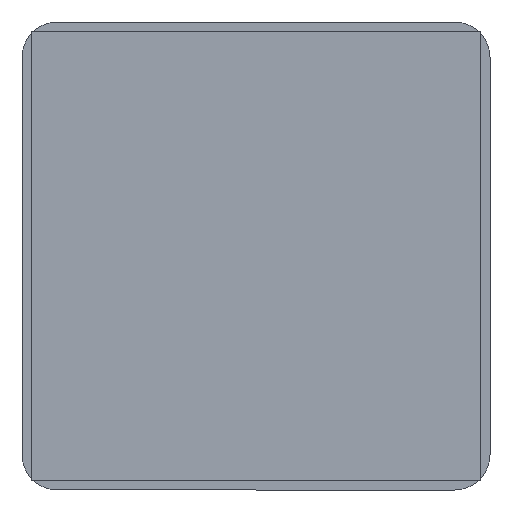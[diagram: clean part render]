
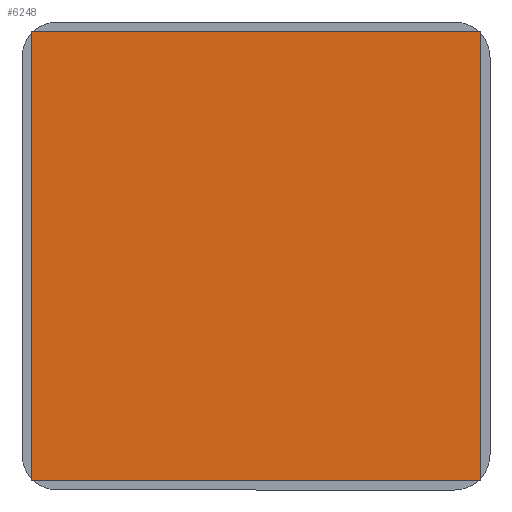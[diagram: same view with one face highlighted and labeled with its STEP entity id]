
A CAD part, front view. The second image highlights one B-rep face of the part: STEP entity #6248.
In plain terms, the highlighted planar face has unit normal (0, -1, 0).
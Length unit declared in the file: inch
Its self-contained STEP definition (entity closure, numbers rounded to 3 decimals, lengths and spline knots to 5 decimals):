
#1129 = CARTESIAN_POINT ( 'NONE',  ( 0.74803, -0.005, 0.74803 ) ) ;
#1322 = DIRECTION ( 'NONE',  ( -1., 0., 0. ) ) ;
#1375 = VECTOR ( 'NONE', #14473, 39.37008 ) ;
#1984 = LINE ( 'NONE', #15726, #1375 ) ;
#2442 = VERTEX_POINT ( 'NONE', #12048 ) ;
#2577 = VECTOR ( 'NONE', #2660, 39.37008 ) ;
#2599 = LINE ( 'NONE', #7559, #8492 ) ;
#2660 = DIRECTION ( 'NONE',  ( 1., 0., 0. ) ) ;
#2899 = EDGE_CURVE ( 'NONE', #8140, #5891, #1984, .T. ) ;
#4488 = CARTESIAN_POINT ( 'NONE',  ( -0.74803, -0.005, -0.74803 ) ) ;
#5891 = VERTEX_POINT ( 'NONE', #4488 ) ;
#5901 = ORIENTED_EDGE ( 'NONE', *, *, #15182, .T. ) ;
#6113 = CARTESIAN_POINT ( 'NONE',  ( -0.74803, -0.005, 0.74803 ) ) ;
#6248 = ADVANCED_FACE ( 'NONE', ( #8374 ), #16081, .T. ) ;
#7559 = CARTESIAN_POINT ( 'NONE',  ( 0.74803, -0.005, 0.74803 ) ) ;
#7620 = CARTESIAN_POINT ( 'NONE',  ( 0.74803, -0.005, -0.74803 ) ) ;
#7939 = LINE ( 'NONE', #8843, #2577 ) ;
#8140 = VERTEX_POINT ( 'NONE', #6113 ) ;
#8374 = FACE_OUTER_BOUND ( 'NONE', #14669, .T. ) ;
#8451 = DIRECTION ( 'NONE',  ( 0., -1., 0. ) ) ;
#8492 = VECTOR ( 'NONE', #1322, 39.37008 ) ;
#8557 = ORIENTED_EDGE ( 'NONE', *, *, #14321, .T. ) ;
#8641 = EDGE_CURVE ( 'NONE', #13682, #2442, #13464, .T. ) ;
#8843 = CARTESIAN_POINT ( 'NONE',  ( 0.74803, -0.005, -0.74803 ) ) ;
#9423 = VECTOR ( 'NONE', #11027, 39.37008 ) ;
#10952 = AXIS2_PLACEMENT_3D ( 'NONE', #1129, #8451, #13432 ) ;
#11027 = DIRECTION ( 'NONE',  ( 0., 0., 1. ) ) ;
#12048 = CARTESIAN_POINT ( 'NONE',  ( 0.74803, -0.005, 0.74803 ) ) ;
#13432 = DIRECTION ( 'NONE',  ( 0., 0., 1. ) ) ;
#13464 = LINE ( 'NONE', #14701, #9423 ) ;
#13682 = VERTEX_POINT ( 'NONE', #7620 ) ;
#13692 = ORIENTED_EDGE ( 'NONE', *, *, #8641, .T. ) ;
#14321 = EDGE_CURVE ( 'NONE', #5891, #13682, #7939, .T. ) ;
#14473 = DIRECTION ( 'NONE',  ( 0., 0., -1. ) ) ;
#14669 = EDGE_LOOP ( 'NONE', ( #13692, #5901, #16010, #8557 ) ) ;
#14701 = CARTESIAN_POINT ( 'NONE',  ( 0.74803, -0.005, -0.74803 ) ) ;
#15182 = EDGE_CURVE ( 'NONE', #2442, #8140, #2599, .T. ) ;
#15726 = CARTESIAN_POINT ( 'NONE',  ( -0.74803, -0.005, -0.74803 ) ) ;
#16010 = ORIENTED_EDGE ( 'NONE', *, *, #2899, .T. ) ;
#16081 = PLANE ( 'NONE',  #10952 ) ;
